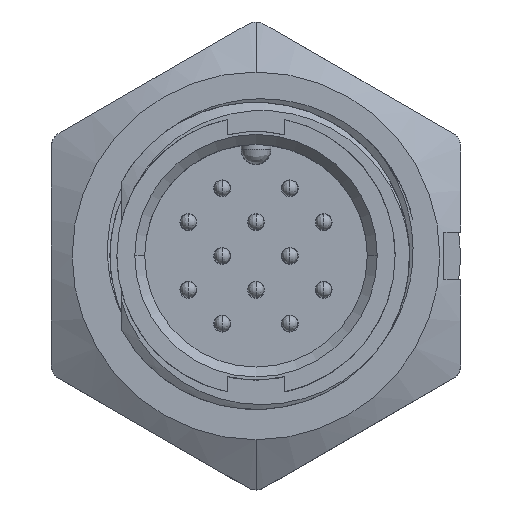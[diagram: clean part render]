
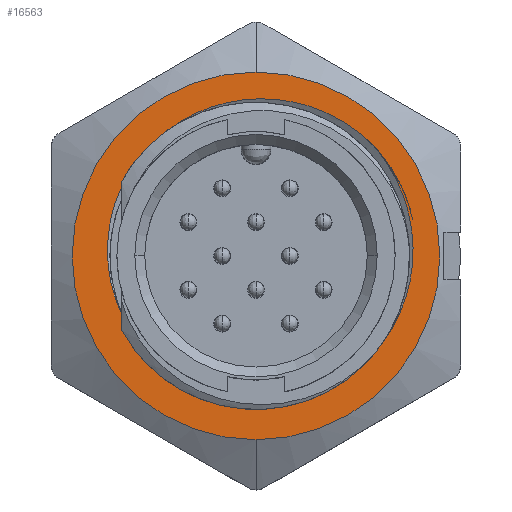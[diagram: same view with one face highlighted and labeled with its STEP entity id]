
A CAD part, top view. The second image highlights one B-rep face of the part: STEP entity #16563.
In plain terms, the highlighted planar face has unit normal (0, 0, 1).
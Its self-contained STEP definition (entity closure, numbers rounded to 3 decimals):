
#52 = CARTESIAN_POINT ( 'NONE',  ( 5.992, 5.451, -6.1 ) ) ;
#195 = EDGE_LOOP ( 'NONE', ( #18530, #17264, #13302, #20056 ) ) ;
#257 = DIRECTION ( 'NONE',  ( 1., 0., 0. ) ) ;
#456 = CARTESIAN_POINT ( 'NONE',  ( 0., 0., -6.1 ) ) ;
#678 = CARTESIAN_POINT ( 'NONE',  ( -7.308, -1.502, -6.1 ) ) ;
#765 = EDGE_CURVE ( 'NONE', #4752, #5200, #978, .T. ) ;
#790 = AXIS2_PLACEMENT_3D ( 'NONE', #4757, #14020, #1319 ) ;
#940 = CARTESIAN_POINT ( 'NONE',  ( -5.759, -4.569, -6.1 ) ) ;
#942 = EDGE_CURVE ( 'NONE', #4752, #5123, #19175, .T. ) ;
#978 = B_SPLINE_CURVE_WITH_KNOTS ( 'NONE', 3,
 ( #17873, #14710, #10018, #2624, #10123, #7175, #18069, #13289, #14613, #16437, #3931, #4139, #13191, #16236, #19397, #678, #8798, #5652 ),
 .UNSPECIFIED., .F., .F.,
 ( 4, 2, 2, 2, 2, 2, 2, 2, 4 ),
 ( 0., 0.125, 0.25, 0.375, 0.5, 0.625, 0.75, 0.875, 1. ),
 .UNSPECIFIED. ) ;
#990 = CARTESIAN_POINT ( 'NONE',  ( 6.588, 4.749, -6.1 ) ) ;
#1319 = DIRECTION ( 'NONE',  ( -1., 0., 0. ) ) ;
#1399 = B_SPLINE_CURVE_WITH_KNOTS ( 'NONE', 3,
 ( #7137, #3891, #10188, #9978, #5210, #5306, #17724, #5613, #2172, #6727, #940, #3787, #19257, #16190, #13246, #11725 ),
 .UNSPECIFIED., .F., .F.,
 ( 4, 1, 2, 2, 2, 1, 2, 2, 4 ),
 ( 0., 0.125, 0.188, 0.25, 0.5, 0.625, 0.688, 0.75, 1. ),
 .UNSPECIFIED. ) ;
#1500 = FACE_OUTER_BOUND ( 'NONE', #7399, .T. ) ;
#1590 = FACE_BOUND ( 'NONE', #195, .T. ) ;
#1874 = EDGE_CURVE ( 'NONE', #19715, #14361, #3345, .T. ) ;
#2172 = CARTESIAN_POINT ( 'NONE',  ( -5.32, -5.077, -6.1 ) ) ;
#2455 = CARTESIAN_POINT ( 'NONE',  ( 5.992, 5.451, -6.1 ) ) ;
#2457 = B_SPLINE_CURVE_WITH_KNOTS ( 'NONE', 3,
 ( #10025, #19810, #8910, #13196, #14916, #17974, #3936, #16647, #18177, #19599, #5856, #16340, #10231, #15008, #12069, #16441, #990, #2528 ),
 .UNSPECIFIED., .F., .F.,
 ( 4, 2, 2, 2, 2, 2, 2, 2, 4 ),
 ( 0., 0.125, 0.25, 0.375, 0.5, 0.625, 0.75, 0.875, 1. ),
 .UNSPECIFIED. ) ;
#2528 = CARTESIAN_POINT ( 'NONE',  ( 5.992, 5.451, -6.1 ) ) ;
#2624 = CARTESIAN_POINT ( 'NONE',  ( 2.14, 7.737, -6.1 ) ) ;
#3345 = CIRCLE ( 'NONE', #11462, 9.25 ) ;
#3787 = CARTESIAN_POINT ( 'NONE',  ( -5.895, -4.391, -6.1 ) ) ;
#3891 = CARTESIAN_POINT ( 'NONE',  ( -3.169, -6.635, -6.1 ) ) ;
#3931 = CARTESIAN_POINT ( 'NONE',  ( -5.876, 4.994, -6.1 ) ) ;
#3936 = CARTESIAN_POINT ( 'NONE',  ( 3.618, -6.74, -6.1 ) ) ;
#4139 = CARTESIAN_POINT ( 'NONE',  ( -6.791, 3.521, -6.1 ) ) ;
#4752 = VERTEX_POINT ( 'NONE', #10650 ) ;
#4757 = CARTESIAN_POINT ( 'NONE',  ( 0., 0., -6.1 ) ) ;
#5123 = VERTEX_POINT ( 'NONE', #2455 ) ;
#5200 = VERTEX_POINT ( 'NONE', #16060 ) ;
#5210 = CARTESIAN_POINT ( 'NONE',  ( -3.938, -6.207, -6.1 ) ) ;
#5306 = CARTESIAN_POINT ( 'NONE',  ( -4.029, -6.148, -6.1 ) ) ;
#5613 = CARTESIAN_POINT ( 'NONE',  ( -4.84, -5.549, -6.1 ) ) ;
#5652 = CARTESIAN_POINT ( 'NONE',  ( -6.682, -3.063, -6.1 ) ) ;
#5856 = CARTESIAN_POINT ( 'NONE',  ( 7.228, -3.031, -6.1 ) ) ;
#6243 = PLANE ( 'NONE',  #14323 ) ;
#6727 = CARTESIAN_POINT ( 'NONE',  ( -5.548, -4.83, -6.1 ) ) ;
#7137 = CARTESIAN_POINT ( 'NONE',  ( -2.967, -6.725, -6.1 ) ) ;
#7169 = CARTESIAN_POINT ( 'NONE',  ( -2.967, -6.725, -6.1 ) ) ;
#7175 = CARTESIAN_POINT ( 'NONE',  ( -0.561, 7.913, -6.1 ) ) ;
#7399 = EDGE_LOOP ( 'NONE', ( #8438, #14467 ) ) ;
#8249 = CARTESIAN_POINT ( 'NONE',  ( 0., 9.25, -6.1 ) ) ;
#8438 = ORIENTED_EDGE ( 'NONE', *, *, #18851, .F. ) ;
#8798 = CARTESIAN_POINT ( 'NONE',  ( -7.058, -2.317, -6.1 ) ) ;
#8910 = CARTESIAN_POINT ( 'NONE',  ( -1.397, -7.328, -6.1 ) ) ;
#9119 = CARTESIAN_POINT ( 'NONE',  ( 5.576, 5.885, -6.1 ) ) ;
#9173 = DIRECTION ( 'NONE',  ( -1., 0., 0. ) ) ;
#9264 = CARTESIAN_POINT ( 'NONE',  ( 0., 0., -6.1 ) ) ;
#9795 = DIRECTION ( 'NONE',  ( 0., 0., 1. ) ) ;
#9978 = CARTESIAN_POINT ( 'NONE',  ( -3.75, -6.322, -6.1 ) ) ;
#10018 = CARTESIAN_POINT ( 'NONE',  ( 3.849, 7.115, -6.1 ) ) ;
#10025 = CARTESIAN_POINT ( 'NONE',  ( -2.967, -6.725, -6.1 ) ) ;
#10123 = CARTESIAN_POINT ( 'NONE',  ( 1.237, 7.899, -6.1 ) ) ;
#10188 = CARTESIAN_POINT ( 'NONE',  ( -3.465, -6.489, -6.1 ) ) ;
#10231 = CARTESIAN_POINT ( 'NONE',  ( 7.921, -0.448, -6.1 ) ) ;
#10650 = CARTESIAN_POINT ( 'NONE',  ( 5.365, 6.07, -6.1 ) ) ;
#10733 = CARTESIAN_POINT ( 'NONE',  ( 5.797, 5.667, -6.1 ) ) ;
#11462 = AXIS2_PLACEMENT_3D ( 'NONE', #9264, #18434, #9173 ) ;
#11725 = CARTESIAN_POINT ( 'NONE',  ( -6.682, -3.063, -6.1 ) ) ;
#12064 = CARTESIAN_POINT ( 'NONE',  ( 5.365, 6.07, -6.1 ) ) ;
#12069 = CARTESIAN_POINT ( 'NONE',  ( 7.706, 2.251, -6.1 ) ) ;
#12167 = CARTESIAN_POINT ( 'NONE',  ( 5.468, 5.983, -6.1 ) ) ;
#13191 = CARTESIAN_POINT ( 'NONE',  ( -7.119, 2.711, -6.1 ) ) ;
#13196 = CARTESIAN_POINT ( 'NONE',  ( 0.283, -7.518, -6.1 ) ) ;
#13246 = CARTESIAN_POINT ( 'NONE',  ( -6.497, -3.464, -6.1 ) ) ;
#13289 = CARTESIAN_POINT ( 'NONE',  ( -3.134, 7.185, -6.1 ) ) ;
#13302 = ORIENTED_EDGE ( 'NONE', *, *, #942, .T. ) ;
#14020 = DIRECTION ( 'NONE',  ( 0., 0., -1. ) ) ;
#14323 = AXIS2_PLACEMENT_3D ( 'NONE', #456, #9795, #257 ) ;
#14361 = VERTEX_POINT ( 'NONE', #19008 ) ;
#14467 = ORIENTED_EDGE ( 'NONE', *, *, #1874, .F. ) ;
#14613 = CARTESIAN_POINT ( 'NONE',  ( -3.918, 6.752, -6.1 ) ) ;
#14678 = VERTEX_POINT ( 'NONE', #7169 ) ;
#14710 = CARTESIAN_POINT ( 'NONE',  ( 4.655, 6.655, -6.1 ) ) ;
#14916 = CARTESIAN_POINT ( 'NONE',  ( 1.145, -7.467, -6.1 ) ) ;
#15008 = CARTESIAN_POINT ( 'NONE',  ( 7.879, 1.35, -6.1 ) ) ;
#15318 = CARTESIAN_POINT ( 'NONE',  ( 5.899, 5.559, -6.1 ) ) ;
#16060 = CARTESIAN_POINT ( 'NONE',  ( -6.682, -3.063, -6.1 ) ) ;
#16190 = CARTESIAN_POINT ( 'NONE',  ( -6.279, -3.846, -6.1 ) ) ;
#16236 = CARTESIAN_POINT ( 'NONE',  ( -7.483, 1.038, -6.1 ) ) ;
#16340 = CARTESIAN_POINT ( 'NONE',  ( 7.786, -1.344, -6.1 ) ) ;
#16437 = CARTESIAN_POINT ( 'NONE',  ( -5.289, 5.656, -6.1 ) ) ;
#16441 = CARTESIAN_POINT ( 'NONE',  ( 7.06, 3.95, -6.1 ) ) ;
#16452 = EDGE_CURVE ( 'NONE', #14678, #5123, #2457, .T. ) ;
#16563 = ADVANCED_FACE ( 'NONE', ( #1590, #1500 ), #6243, .T. ) ;
#16647 = CARTESIAN_POINT ( 'NONE',  ( 5.077, -5.803, -6.1 ) ) ;
#17264 = ORIENTED_EDGE ( 'NONE', *, *, #765, .F. ) ;
#17724 = CARTESIAN_POINT ( 'NONE',  ( -4.494, -5.834, -6.1 ) ) ;
#17873 = CARTESIAN_POINT ( 'NONE',  ( 5.365, 6.07, -6.1 ) ) ;
#17974 = CARTESIAN_POINT ( 'NONE',  ( 2.813, -7.078, -6.1 ) ) ;
#18069 = CARTESIAN_POINT ( 'NONE',  ( -1.455, 7.766, -6.1 ) ) ;
#18177 = CARTESIAN_POINT ( 'NONE',  ( 5.732, -5.207, -6.1 ) ) ;
#18434 = DIRECTION ( 'NONE',  ( 0., 0., -1. ) ) ;
#18530 = ORIENTED_EDGE ( 'NONE', *, *, #19607, .T. ) ;
#18851 = EDGE_CURVE ( 'NONE', #14361, #19715, #18970, .T. ) ;
#18970 = CIRCLE ( 'NONE', #790, 9.25 ) ;
#19008 = CARTESIAN_POINT ( 'NONE',  ( 0., -9.25, -6.1 ) ) ;
#19175 = B_SPLINE_CURVE_WITH_KNOTS ( 'NONE', 3,
 ( #12064, #12167, #9119, #10733, #15318, #52 ),
 .UNSPECIFIED., .F., .F.,
 ( 4, 2, 4 ),
 ( 0., 0.5, 1. ),
 .UNSPECIFIED. ) ;
#19257 = CARTESIAN_POINT ( 'NONE',  ( -5.963, -4.299, -6.1 ) ) ;
#19397 = CARTESIAN_POINT ( 'NONE',  ( -7.521, 0.176, -6.1 ) ) ;
#19599 = CARTESIAN_POINT ( 'NONE',  ( 6.808, -3.822, -6.1 ) ) ;
#19607 = EDGE_CURVE ( 'NONE', #14678, #5200, #1399, .T. ) ;
#19715 = VERTEX_POINT ( 'NONE', #8249 ) ;
#19810 = CARTESIAN_POINT ( 'NONE',  ( -2.216, -7.089, -6.1 ) ) ;
#20056 = ORIENTED_EDGE ( 'NONE', *, *, #16452, .F. ) ;
